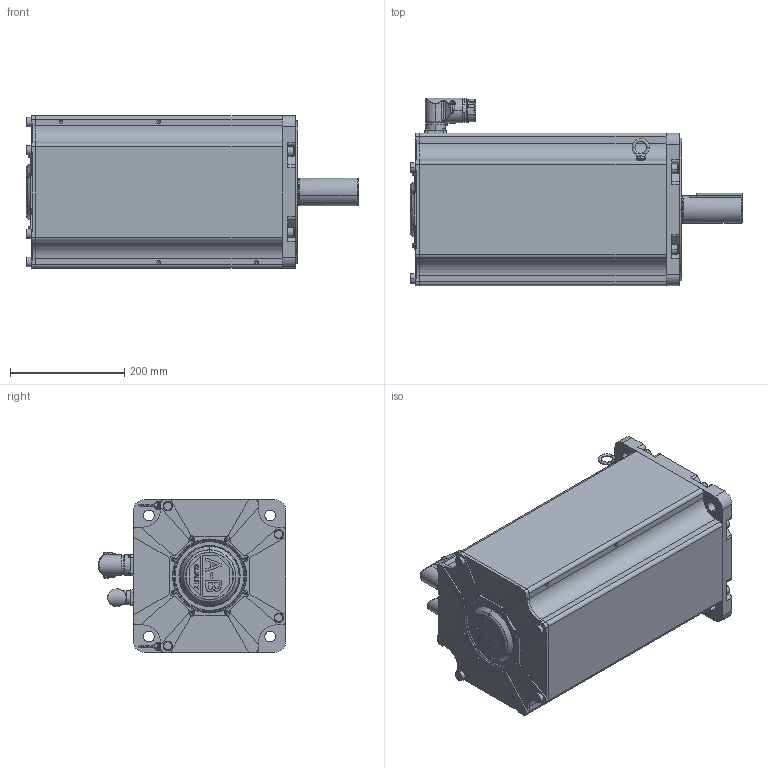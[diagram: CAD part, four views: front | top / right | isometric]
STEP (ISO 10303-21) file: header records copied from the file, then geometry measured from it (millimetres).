
FILE_DESCRIPTION (( 'STEP AP214' ), '1' );
FILE_NAME ('Rockwell Automation-MPL-x980x-xJ74AA.STEP', '2015-07-08T13:52:19', ( 'Windows User' ), ( '' ), 'SwSTEP 2.0', 'SolidWorks 2015', '' );
FILE_SCHEMA (( 'AUTOMOTIVE_DESIGN' ));
Length unit declared in the file: inch
Products named in the file (6): Rockwell Automation-MPL-x980x-xJ74AA; Rockwell Automation-MPL-x980x-xJ74AA_MPL-9xx-Eyebolt; Rockwell Automation-MPL-x980x-xJ74AA_MPL-9xx-Encoder Connector; Rockwell Automation-MPL-x980x-xJ74AA_MPL-9xx-Power Connector-M40; Rockwell Automation-MPL-x980x-xJ74AA_MPL-9xx-Shaft-Key_980-shaft-keyed-BRAKE; Rockwell Automation-MPL-x980x-xJ74AA_MPL-9xx-Body_980-BRAKE
Assembly tree (6 placements, depth 2):
  Rockwell Automation-MPL-x980x-xJ74AA
    Rockwell Automation-MPL-x980x-xJ74AA_MPL-9xx-Body_980-BRAKE
    Rockwell Automation-MPL-x980x-xJ74AA_MPL-9xx-Shaft-Key_980-shaft-keyed-BRAKE
    Rockwell Automation-MPL-x980x-xJ74AA_MPL-9xx-Power Connector-M40
    Rockwell Automation-MPL-x980x-xJ74AA_MPL-9xx-Encoder Connector
    Rockwell Automation-MPL-x980x-xJ74AA_MPL-9xx-Eyebolt  x2
Bounding box: 581.15 x 328.16 x 266.7 mm (x, y, z)
Volume: 15947499.3 mm3; surface area: 1399703.4 mm2
Topology: 9 solids, 9 shells, 1028 faces, 2531 edges, 1611 vertices
Faces by surface type: plane 430, cylinder 355, torus 108, cone 84, bspline 51
Entity records: 35854 total; most frequent: CARTESIAN_POINT 9398, DIRECTION 5225, ORIENTED_EDGE 4940, EDGE_CURVE 2470, AXIS2_PLACEMENT_3D 1945, VERTEX_POINT 1585, LINE 1335, VECTOR 1335
